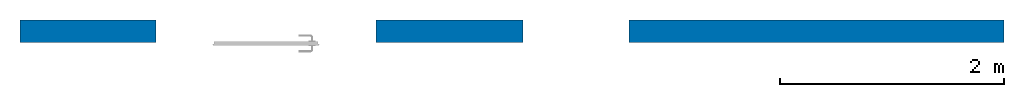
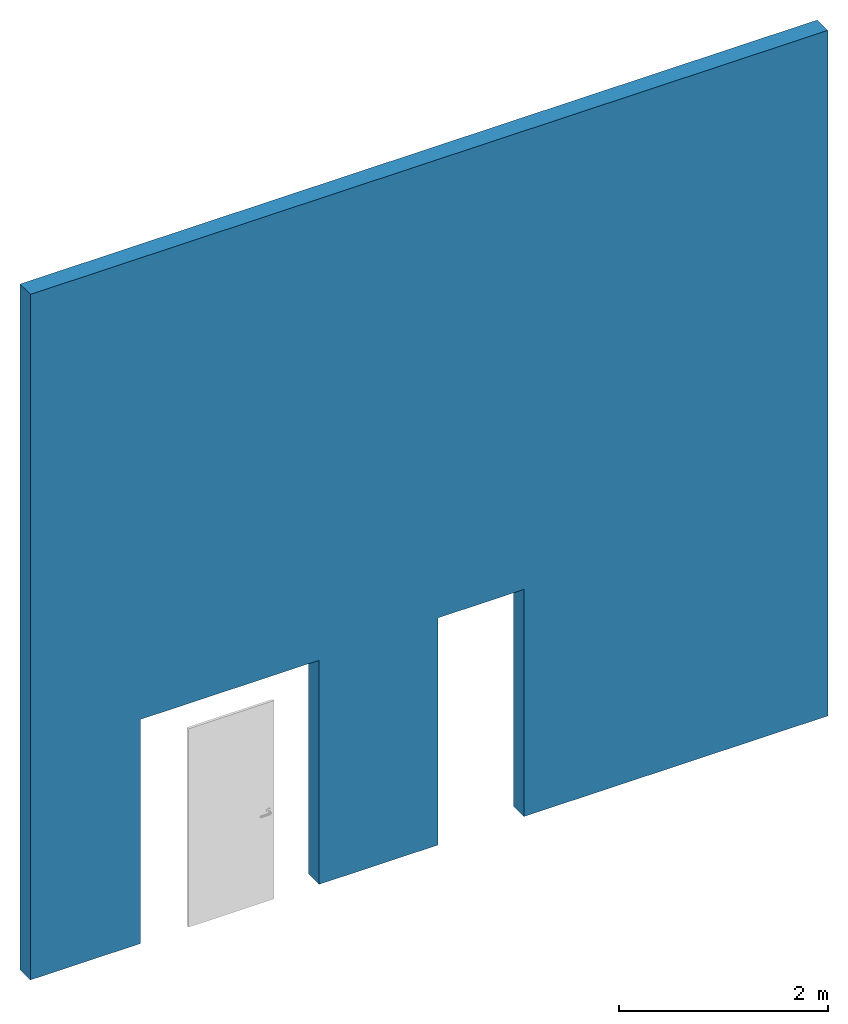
# One storey, part 1 of 2: 1 wall, 2 openings.
"""IFC2X3 building model written with IfcOpenShell, lengths in millimetres."""

import ifcopenshell
import ifcopenshell.guid

model = None  # the IFC model being written
_history = None  # IfcOwnerHistory: only IFC2X3 demands one
_inside = {}  # id of a spatial element -> (the spatial element, [elements in it])
_under = {}  # id of a project, library or spatial element -> (it, [spatial elements below it])
_declared = {}  # id of a project -> (the project, [libraries it declares])
_typed = {}  # id of a type object -> (the type object, [elements of that type])
_made_of = {}  # id of a material, layer set ... -> (it, [elements and type objects made of it])


def new_model(schema):
    """Start an empty IFC model of exactly this schema.

    Asked for "IFC4X3", IfcOpenShell would pick the latest addendum, in which some entities
    have other attributes; the version numbers below select the first issue.
    IFC2X3 requires an IfcOwnerHistory on every rooted entity: one is made here for all.
    """
    global model, _history
    if schema == "IFC4X3":
        model = ifcopenshell.file(schema_version=(4, 3, 0, 0))
    else:
        model = ifcopenshell.file(schema=schema)
    _inside.clear()
    _under.clear()
    _declared.clear()
    _typed.clear()
    _made_of.clear()
    _history = None
    if model.schema == "IFC2X3":
        org = make("IfcOrganization", Name="unknown")
        user = make(
            "IfcPersonAndOrganization",
            ThePerson=make("IfcPerson", FamilyName="unknown"),
            TheOrganization=org,
        )
        app = make(
            "IfcApplication",
            ApplicationDeveloper=org,
            Version="unknown",
            ApplicationFullName="unknown",
            ApplicationIdentifier="unknown",
        )
        _history = make(
            "IfcOwnerHistory",
            OwningUser=user,
            OwningApplication=app,
            ChangeAction="ADDED",
            CreationDate=0,
        )
    return model


def make(cls, **values):
    """One entity of the class cls with the attributes given. An attribute that is None is left unset."""
    return model.create_entity(
        cls, **{name: value for name, value in values.items() if value is not None}
    )


def entity(cls, *values):
    """Any entity or typed value of the class cls, its attributes in the order of the schema. None: left unset."""
    e = model.create_entity(cls)
    for i, value in enumerate(values):
        if value is not None:
            e[i] = value
    return e


def rooted(cls, **values):
    """An entity with a GlobalId (a new one), such as an element, a storey or a relation."""
    return make(cls, GlobalId=ifcopenshell.guid.new(), OwnerHistory=_history, **values)


def si_unit(unit_type, name, prefix=None):
    """IfcSIUnit, for example si_unit("LENGTHUNIT", "METRE", prefix="MILLI")."""
    return make("IfcSIUnit", UnitType=unit_type, Prefix=prefix, Name=name)


def converted_unit(unit_type, name, factor, base, dimensions=None, offset=None):
    """IfcConversionBasedUnit, such as the inch: factor (a typed value) times the base unit."""
    return make(
        "IfcConversionBasedUnit"
        if offset is None
        else "IfcConversionBasedUnitWithOffset",
        ConversionOffset=offset,
        Dimensions=None
        if dimensions is None
        else entity("IfcDimensionalExponents", *dimensions),
        UnitType=unit_type,
        Name=name,
        ConversionFactor=make(
            "IfcMeasureWithUnit", ValueComponent=factor, UnitComponent=base
        ),
    )


def derived_unit(unit_type, elements):
    """IfcDerivedUnit: a product of units, each with its exponent."""
    return make(
        "IfcDerivedUnit",
        Elements=[
            make("IfcDerivedUnitElement", Unit=unit, Exponent=power)
            for unit, power in elements
        ],
        UnitType=unit_type,
    )


def assignment(units):
    """IfcUnitAssignment: the units of a project."""
    return None if units is None else make("IfcUnitAssignment", Units=units)


def point(xyz):
    """IfcCartesianPoint."""
    return None if xyz is None else make("IfcCartesianPoint", Coordinates=xyz)


def direction(xyz):
    """IfcDirection."""
    return None if xyz is None else make("IfcDirection", DirectionRatios=xyz)


def frame(location, z_axis=None, x_axis=None):
    """IfcAxis2Placement3D, a coordinate frame: its origin and axes. An axis left out is left unset."""
    return make(
        "IfcAxis2Placement3D",
        Location=point(location),
        Axis=direction(z_axis),
        RefDirection=direction(x_axis),
    )


def frame_2d(location, x_axis=None):
    """IfcAxis2Placement2D, a coordinate frame in the plane: its origin and x axis."""
    return make(
        "IfcAxis2Placement2D", Location=point(location), RefDirection=direction(x_axis)
    )


def origin():
    """The frame at (0, 0, 0) with its axes left unset."""
    return frame((0.0, 0.0, 0.0))


def place(relative_to, where):
    """IfcLocalPlacement: puts the frame where relative to a parent placement (None: the world)."""
    return make(
        "IfcLocalPlacement", PlacementRelTo=relative_to, RelativePlacement=where
    )


def context(
    kind, dimensions, precision=None, world=None, true_north=None, identifier=None
):
    """IfcGeometricRepresentationContext, for example the 3D "Model" context."""
    return make(
        "IfcGeometricRepresentationContext",
        ContextIdentifier=identifier,
        ContextType=kind,
        CoordinateSpaceDimension=dimensions,
        Precision=precision,
        WorldCoordinateSystem=world,
        TrueNorth=true_north,
    )


def subcontext(parent, identifier, kind, view, scale=None):
    """IfcGeometricRepresentationSubContext, for example "Body" below "Model"."""
    return make(
        "IfcGeometricRepresentationSubContext",
        ContextIdentifier=identifier,
        ContextType=kind,
        ParentContext=parent,
        TargetScale=scale,
        TargetView=view,
    )


def project(units=None, contexts=None):
    """IfcProject with its units and contexts."""
    return rooted(
        "IfcProject",
        Name="project",
        RepresentationContexts=contexts,
        UnitsInContext=assignment(units),
    )


def spatial(cls, under=None, at=None, **own):
    """A site, building, storey or space (cls), placed at a placement, below another one or the project."""
    s = rooted(cls, ObjectPlacement=at, **own)
    if under is not None:
        _under.setdefault(under.id(), (under, []))[1].append(s)
    return s


def profile(cls, at=None, kind="AREA", **sizes):
    """A parametric profile (cls). Its sizes go by their IFC names, for example OverallWidth=200.0."""
    return make(cls, ProfileType=kind, Position=at, **sizes)


def rectangle(**sizes):
    """IfcRectangleProfileDef."""
    return profile("IfcRectangleProfileDef", **sizes)


def extrude(swept, where, along, depth):
    """IfcExtrudedAreaSolid: the profile swept, set in the frame where, extruded along a direction by depth."""
    return make(
        "IfcExtrudedAreaSolid",
        SweptArea=swept,
        Position=where,
        ExtrudedDirection=direction(along),
        Depth=depth,
    )


def shape(context_of_items, identifier, shape_type, items):
    """IfcShapeRepresentation: the items that make up one representation, for example the "Body"."""
    return make(
        "IfcShapeRepresentation",
        ContextOfItems=context_of_items,
        RepresentationIdentifier=identifier,
        RepresentationType=shape_type,
        Items=items,
    )


def material(Name=None, Category=None):
    """IfcMaterial."""
    return make("IfcMaterial", Name=Name, Category=Category)


def layer(
    of_material, thickness, ventilated=None, Name=None, Category=None, Priority=None
):
    """IfcMaterialLayer: one layer of a wall or slab, of a material (None: an air gap)."""
    return make(
        "IfcMaterialLayer",
        Material=of_material,
        LayerThickness=thickness,
        IsVentilated=ventilated,
        Name=Name,
        Category=Category,
        Priority=Priority,
    )


def layer_set(layers, Name=None):
    """IfcMaterialLayerSet."""
    return make("IfcMaterialLayerSet", MaterialLayers=layers, LayerSetName=Name)


def layer_usage(for_layer_set, set_direction, sense, offset, extent=None):
    """IfcMaterialLayerSetUsage: how a layer set lies in its element."""
    return make(
        "IfcMaterialLayerSetUsage",
        ForLayerSet=for_layer_set,
        LayerSetDirection=set_direction,
        DirectionSense=sense,
        OffsetFromReferenceLine=offset,
        ReferenceExtent=extent,
    )


def made_of(thing, what):
    """Note that an element or type object is made of a material, layer set ...; save() writes the relation."""
    if what is not None:
        _made_of.setdefault(what.id(), (what, []))[1].append(thing)
    return thing


def type_object(cls, material=None, **own):
    """A type object (cls), such as IfcWallType, which elements share."""
    return made_of(rooted(cls, **own), material)


def element(
    cls,
    number,
    at=None,
    inside=None,
    cuts=None,
    type_object=None,
    material=None,
    context=None,
    identifier="Body",
    shape_type=None,
    held_by="IfcProductDefinitionShape",
    body=None,
    shapes=None,
    **own,
):
    """One element of the class cls, such as IfcWall. Its Tag is "e" and its number.

    at: its placement. inside: the storey or other place that contains it. cuts: it is an
    opening in that element (IfcRelVoidsElement). A single representation is given by context,
    identifier, shape_type and body (its items); several are given by shapes. held_by: the class
    of the entity that holds the representations. save() writes the other relations.
    """
    e = rooted(cls, Tag="e%d" % number, ObjectPlacement=at, **own)
    if body is not None:
        shapes = [shape(context, identifier, shape_type, body)]
    if shapes is not None:
        e.Representation = make(held_by, Representations=shapes)
    if inside is not None:
        _inside.setdefault(inside.id(), (inside, []))[1].append(e)
    if cuts is not None:
        rooted(
            "IfcRelVoidsElement", RelatingBuildingElement=cuts, RelatedOpeningElement=e
        )
    if type_object is not None:
        _typed.setdefault(type_object.id(), (type_object, []))[1].append(e)
    return made_of(e, material)


def aggregate(whole, parts):
    """IfcRelAggregates: a whole, such as a stair, and the parts it consists of."""
    return rooted("IfcRelAggregates", RelatingObject=whole, RelatedObjects=parts)


def save(model, path):
    """Write the relations noted so far, then the file.

    IfcRelAggregates (storeys below a building ...), IfcRelContainedInSpatialStructure (elements
    in a storey), IfcRelDefinesByType, IfcRelAssociatesMaterial and IfcRelDeclares: one each for
    every whole, place, type object, material and project.
    """
    for whole, parts in _under.values():
        aggregate(whole, parts)
    for where, things in _inside.values():
        rooted(
            "IfcRelContainedInSpatialStructure",
            RelatedElements=things,
            RelatingStructure=where,
        )
    for kind, things in _typed.values():
        rooted("IfcRelDefinesByType", RelatedObjects=things, RelatingType=kind)
    for what, things in _made_of.values():
        rooted("IfcRelAssociatesMaterial", RelatedObjects=things, RelatingMaterial=what)
    for by, libraries in _declared.values():
        rooted("IfcRelDeclares", RelatingContext=by, RelatedDefinitions=libraries)
    model.write(path)


model = new_model("IFC2X3")

# Units and contexts
model_context = context("Model", 3, precision=0.01, world=origin(), true_north=direction((6.12303176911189e-17, 1.0)))
body_context = subcontext(model_context, "Body", "Model", "MODEL_VIEW")
ifc_project = project(units=[si_unit("LENGTHUNIT", "METRE", prefix="MILLI"), si_unit("AREAUNIT", "SQUARE_METRE"), si_unit("VOLUMEUNIT", "CUBIC_METRE"), converted_unit("PLANEANGLEUNIT", "DEGREE", entity("IfcRatioMeasure", 0.0174532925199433), si_unit("PLANEANGLEUNIT", "RADIAN"), dimensions=[0, 0, 0, 0, 0, 0, 0]), si_unit("MASSUNIT", "GRAM", prefix="KILO"), derived_unit("MASSDENSITYUNIT", [(si_unit("MASSUNIT", "GRAM", prefix="KILO"), 1), (si_unit("LENGTHUNIT", "METRE"), -3)]), si_unit("TIMEUNIT", "SECOND"), si_unit("FREQUENCYUNIT", "HERTZ"), si_unit("THERMODYNAMICTEMPERATUREUNIT", "DEGREE_CELSIUS"), derived_unit("THERMALTRANSMITTANCEUNIT", [(si_unit("MASSUNIT", "GRAM", prefix="KILO"), 1), (si_unit("THERMODYNAMICTEMPERATUREUNIT", "KELVIN"), -1), (si_unit("TIMEUNIT", "SECOND"), -3)]), derived_unit("VOLUMETRICFLOWRATEUNIT", [(si_unit("LENGTHUNIT", "METRE"), 3), (si_unit("TIMEUNIT", "SECOND"), -1)]), si_unit("ELECTRICCURRENTUNIT", "AMPERE"), si_unit("ELECTRICVOLTAGEUNIT", "VOLT"), si_unit("POWERUNIT", "WATT"), si_unit("FORCEUNIT", "NEWTON", prefix="KILO"), si_unit("ILLUMINANCEUNIT", "LUX"), si_unit("LUMINOUSFLUXUNIT", "LUMEN"), si_unit("LUMINOUSINTENSITYUNIT", "CANDELA"), derived_unit("USERDEFINED", [(si_unit("MASSUNIT", "GRAM", prefix="KILO"), -1), (si_unit("LENGTHUNIT", "METRE"), -2), (si_unit("TIMEUNIT", "SECOND"), 3), (si_unit("LUMINOUSFLUXUNIT", "LUMEN"), 1)]), derived_unit("LINEARVELOCITYUNIT", [(si_unit("LENGTHUNIT", "METRE"), 1), (si_unit("TIMEUNIT", "SECOND"), -1)]), si_unit("PRESSUREUNIT", "PASCAL"), derived_unit("USERDEFINED", [(si_unit("LENGTHUNIT", "METRE"), -2), (si_unit("MASSUNIT", "GRAM", prefix="KILO"), 1), (si_unit("TIMEUNIT", "SECOND"), -2)])], contexts=[model_context])

# Site, building, storey
site_placement = place(None, origin())
site = spatial("IfcSite", under=ifc_project, at=site_placement, Name="Default", CompositionType="ELEMENT")
building_placement = place(site_placement, origin())
building = spatial("IfcBuilding", under=site, at=building_placement, CompositionType="ELEMENT")
storey_placement = place(building_placement, origin())
storey = spatial("IfcBuildingStorey", under=building, at=storey_placement, Name="Level 1", CompositionType="ELEMENT", Elevation=0.0)

# Wall, openings
ifc_material = material(Name="Default Wall")
ifc_layer = layer(ifc_material, 200.0)
ifc_layer_set = layer_set([ifc_layer], Name="Basic Wall:Generic - 200mm")
ifc_layer_usage = layer_usage(ifc_layer_set, "AXIS2", "NEGATIVE", 100.0)
wall_type = type_object("IfcWallType", Name="Basic Wall:Generic - 200mm", PredefinedType="STANDARD", material=ifc_layer_set)
wall_placement = place(storey_placement, frame((-9835.14013828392, -4140.20613961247, 0.0)))
wall = element("IfcWallStandardCase", 1, at=wall_placement, inside=storey, type_object=wall_type, material=ifc_layer_usage, Name="Basic Wall:Generic - 200mm", ObjectType="Basic Wall:Generic - 200mm", context=body_context, shape_type="SweptSolid", body=[
    extrude(rectangle(XDim=8800.0, YDim=200.0, at=frame_2d((4400.0, 6.3948846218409e-14), x_axis=(-1.0, 0.0))), origin(), (0.0, 0.0, 1.0), 8000.0),
])
opening_1_placement = place(wall_placement, frame((9835.14013828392, 4140.20613961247, 0.0)))
element("IfcOpeningElement", 2, at=opening_1_placement, cuts=wall, Name="Basic Wall:Generic - 200mm", ObjectType="Opening", context=body_context, shape_type="SweptSolid", body=[
    extrude(rectangle(XDim=2615.00000000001, YDim=1970.0, at=frame_2d((0.0, 5.6843418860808e-13), x_axis=(1.0, 0.0))), frame((-7635.14013828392, -4240.20613961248, 1307.5), z_axis=(0.0, 1.0, 0.0), x_axis=(0.0, 0.0, -1.0)), (0.0, 0.0, 1.0), 200.0),
])
opening_2_placement = place(wall_placement, frame((9835.14013828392, 4140.20613961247, 0.0)))
element("IfcOpeningElement", 3, at=opening_2_placement, cuts=wall, Name="Basic Wall:Generic - 200mm", ObjectType="Opening", context=body_context, shape_type="SweptSolid", body=[
    extrude(rectangle(XDim=2649.99999999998, YDim=945.0, at=frame_2d((-5.40012479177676e-13, -438.333333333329), x_axis=(0.0, 1.0))), frame((-4862.64013828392, -4240.20613961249, 886.666666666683), z_axis=(0.0, 1.0, 0.0), x_axis=(1.0, 0.0, 0.0)), (0.0, 0.0, 1.0), 200.0),
])

save(model, "model.ifc")
